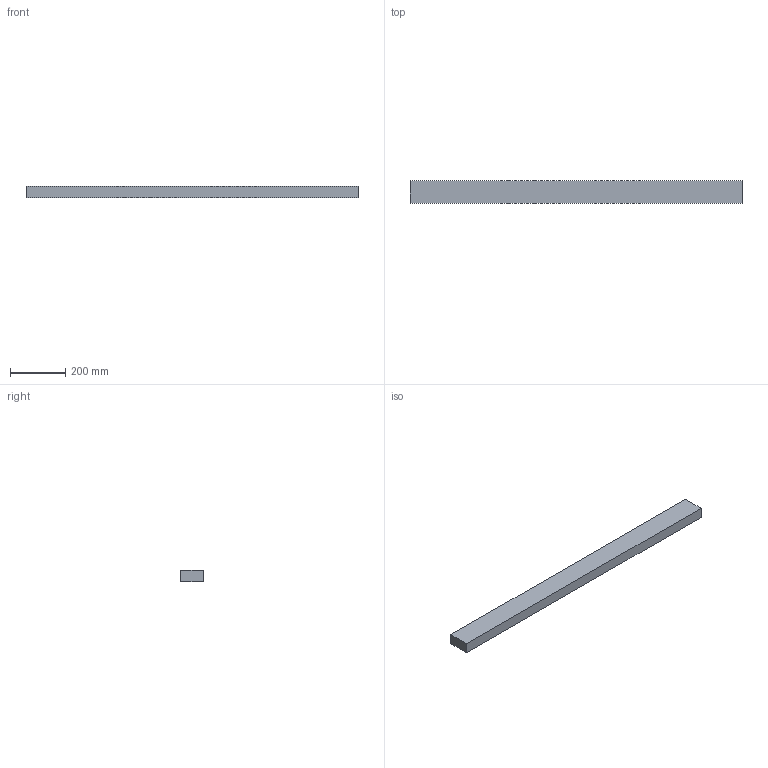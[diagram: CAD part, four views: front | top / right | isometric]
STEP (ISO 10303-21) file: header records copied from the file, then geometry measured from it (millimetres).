
FILE_DESCRIPTION(('Open CASCADE Model'),'2;1');
FILE_NAME('Open CASCADE Shape Model','2026-03-30T20:16:05',('Author'),( 'Open CASCADE'),'Open CASCADE STEP processor 7.8','Open CASCADE 7.8' ,'Unknown');
FILE_SCHEMA(('AUTOMOTIVE_DESIGN { 1 0 10303 214 1 1 1 1 }'));
Length unit declared in the file: millimetre
Products named in the file (1): Open CASCADE STEP translator 7.8 18
Bounding box: 1200 x 80 x 40 mm (x, y, z)
Volume: 3840000 mm3; surface area: 294400 mm2
Topology: 1 solids, 1 shells, 6 faces, 12 edges, 8 vertices
Faces by surface type: plane 6
Entity records: 322 total; most frequent: CARTESIAN_POINT 51, DIRECTION 50, LINE 36, VECTOR 36, ORIENTED_EDGE 24, PCURVE 24, DEFINITIONAL_REPRESENTATION 24, EDGE_CURVE 12
